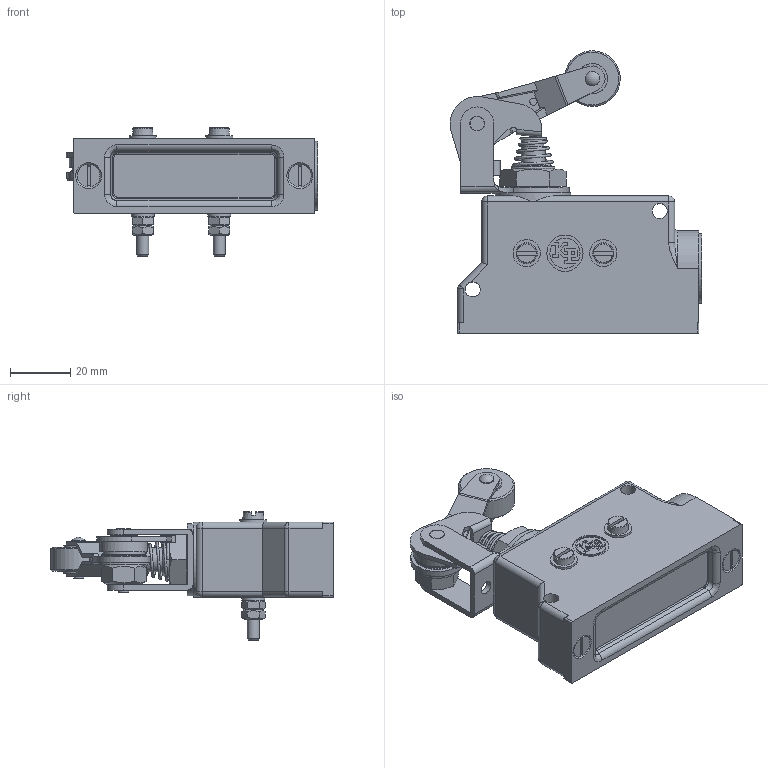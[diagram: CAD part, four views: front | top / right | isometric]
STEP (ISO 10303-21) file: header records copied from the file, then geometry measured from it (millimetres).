
FILE_DESCRIPTION(('Microrutor Basico Protegido Fixacao Lateral Parafuso M4x40 Atuador Alavanca Regulavel c/ Roldana'),'2;1');
FILE_NAME('E:\WorkFolder\Bibl\3DWeb\kp_mc_mc6y_step.stp','2013-01-11T11:25:27',('DIE'),('KAP'),'Autodesk Inventor 2011','Autodesk Inventor 2011','Direitos reservados. Proibido reproducao, cedencia ou revelacao de conteudo a terceiros, salvo com autorizacao.');
FILE_SCHEMA(('AUTOMOTIVE_DESIGN { 1 0 10303 214 1 1 1 1 }'));
Length unit declared in the file: millimetre
Products named in the file (3): MC6Y_3D; MC_Caixa_6; MC_Atuador_Y
Assembly tree (2 placements, depth 2):
  MC6Y_3D
    MC_Caixa_6
    MC_Atuador_Y
Bounding box: 83.48 x 93.67 x 42.6 mm (x, y, z)
Volume: 82378.7 mm3; surface area: 26859.3 mm2
Topology: 3 solids, 15 shells, 983 faces, 2969 edges, 1870 vertices
Faces by surface type: plane 632, cylinder 249, bspline 48, cone 37, sphere 10, torus 7
Full cylindrical faces by diameter (mm): 2.4 x4, 2.459 x1, 3 x5, 3.1 x1, 3.242 x2, 3.3 x2, 3.621 x2, 4 x8, 4.3 x2, 4.5 x5, 4.762 x1, 4.763 x1, 4.805 x2, 4.9 x1, 5 x5, 6 x1, 6.2 x1, 6.647 x1, 7 x1, 7.9 x1, 7.937 x2, 8 x1, 8.4 x2, 8.5 x1, 9 x2, 11 x1, 11.9 x1, 12 x1, 14 x2, 15 x1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
Entity records: 36427 total; most frequent: CARTESIAN_POINT 9010, DIRECTION 5612, ORIENTED_EDGE 5608, EDGE_CURVE 2804, AXIS2_PLACEMENT_3D 2082, VERTEX_POINT 1823, VECTOR 1448, LINE 1448
